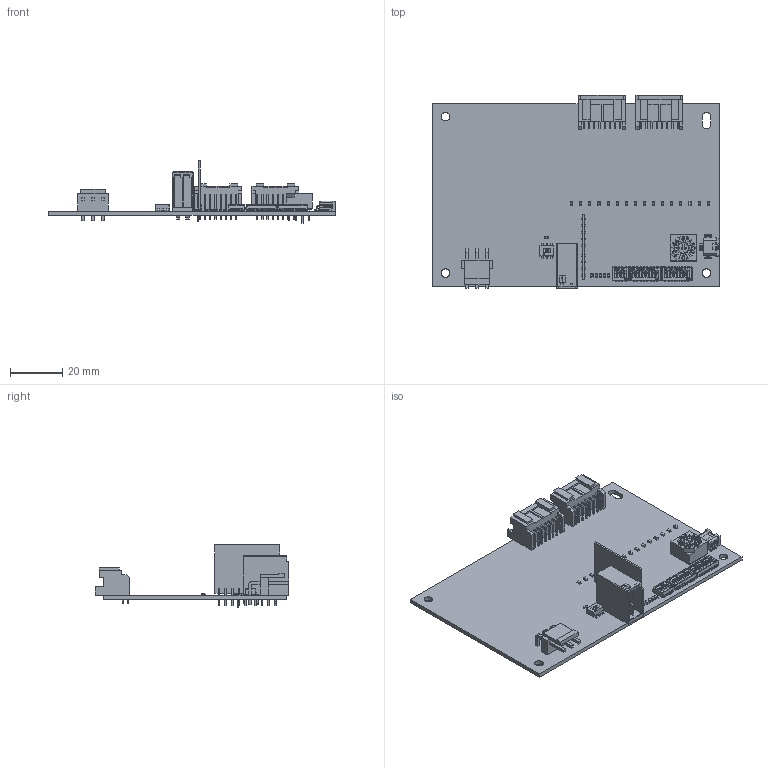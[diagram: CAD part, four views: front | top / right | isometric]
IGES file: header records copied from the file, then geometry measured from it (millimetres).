
Start section: SolidWorks IGES file using analytic representation for surfaces
Bounding box: 110 x 74.21 x 23.8 mm (x, y, z)
Surface area: 24882.4 mm2 (no closed solid volume)
Topology: 0 solids, 0 shells, 3638 faces, 25420 edges, 25420 vertices
Faces by surface type: bspline 2893, revolution 745
